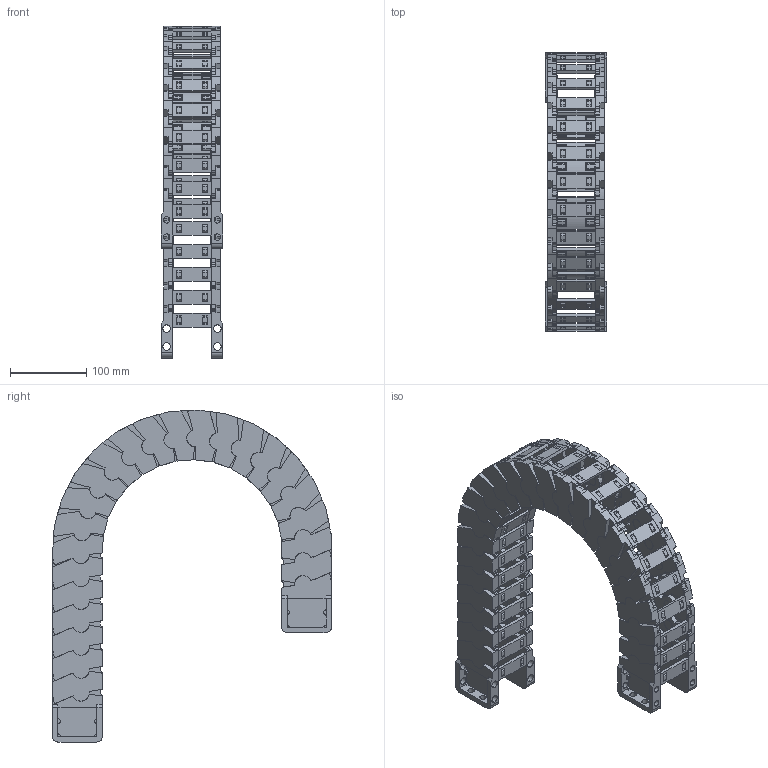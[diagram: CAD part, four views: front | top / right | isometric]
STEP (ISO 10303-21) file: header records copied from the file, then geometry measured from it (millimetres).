
FILE_DESCRIPTION((''),'2;1');
FILE_NAME('JY-52X50-R150_ASM','2022-05-06T09:09:59',('admin'),(''),'CREO PARAMETRIC BY PTC INC, 2021164','CREO PARAMETRIC BY PTC INC, 2021164','');
FILE_SCHEMA(('CONFIG_CONTROL_DESIGN','GEOMETRIC_VALIDATION_PROPERTIES_MIM'));
Length unit declared in the file: millimetre
Products named in the file (11): 52XL-L; 42-52XL-YP; 52XL-R; ASM0001_ASM; 52-LTT-A-L; 52-LTT-A-R; 52XL-LTT-A_ASM; 52-LTT-B-L; 52-LTT-B-R; 52XL-LTT-B_ASM; JY-52X50-R150_ASM
Assembly tree (37 placements, depth 3):
  JY-52X50-R150_ASM
    ASM0001_ASM  x23
      52XL-L
      42-52XL-YP
      52XL-R
    52XL-LTT-A_ASM
      52-LTT-A-L
      42-52XL-YP  x2
      52-LTT-A-R
    52XL-LTT-B_ASM
      52-LTT-B-L
      42-52XL-YP  x2
      52-LTT-B-R
Bounding box: 80.5 x 365.02 x 434.64 mm (x, y, z)
Volume: 1295717.2 mm3; surface area: 643216.9 mm2
Topology: 100 solids, 100 shells, 5112 faces, 15490 edges, 10576 vertices
Faces by surface type: plane 3634, cylinder 1094, cone 384
Entity records: 19292 total; most frequent: CARTESIAN_POINT 3453, DIRECTION 3142, ORIENTED_EDGE 3124, EDGE_CURVE 1562, VECTOR 1074, LINE 1074, VERTEX_POINT 1056, AXIS2_PLACEMENT_3D 1034
